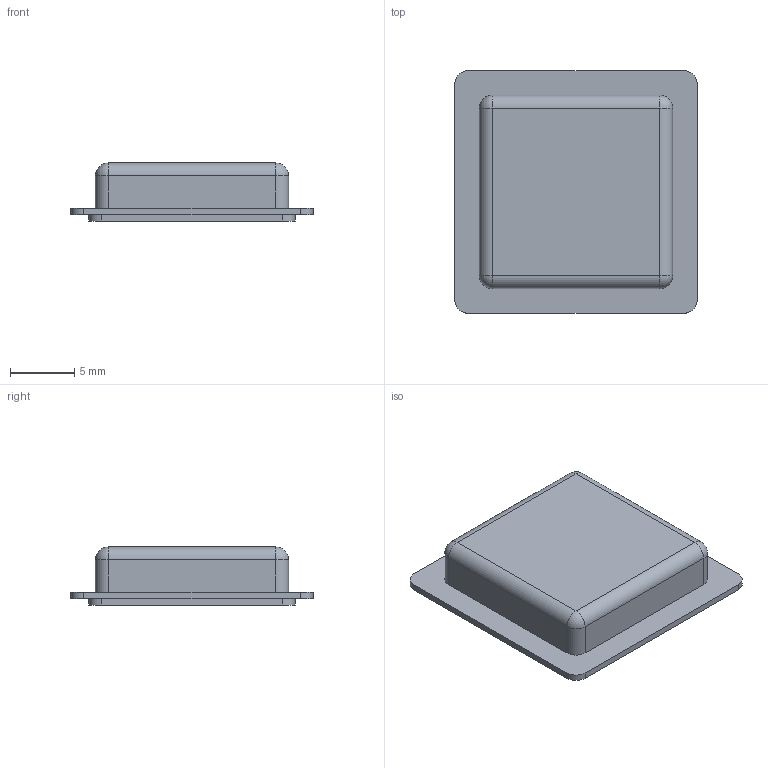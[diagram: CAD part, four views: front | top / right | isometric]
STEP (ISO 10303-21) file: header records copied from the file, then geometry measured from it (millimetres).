
FILE_DESCRIPTION(/* description */ ('STEP AP242 Edition 2','CAx-IF Rec.Pracs.---Representation and Presentation of Product Manufacturing Information (PMI)---4.0---2014-10-13','CAx-IF Rec.Pracs.---3D Tessellated Geometry---0.4---2014-09-14','2;1','CAx-IF Rec.Pracs.---User Defined Attributes---1.5---2016-08-15'),/* implementation_level */ '2;1');
FILE_NAME(/* name */ 'Assembly 1 - Part 1 (7)',/* time_stamp */ '2026-07-23T10:03:21Z',/* author */ (''),/* organization */ (''),/* preprocessor_version */ 'ST-DEVELOPER v20',/* originating_system */ 'ONSHAPE BY PTC INC, 1.218',/* authorisation */ ' ');
FILE_SCHEMA (('AP242_MANAGED_MODEL_BASED_3D_ENGINEERING_MIM_LF { 1 0 10303 442 3 1 4 }'));
Length unit declared in the file: metre
Products named in the file (1): Part 1
Bounding box: 18.8 x 18.8 x 4.5 mm (x, y, z)
Volume: 866.5 mm3; surface area: 1007.9 mm2
Topology: 1 solids, 1 shells, 54 faces, 136 edges, 84 vertices
Faces by surface type: plane 26, cylinder 24, sphere 4
Entity records: 1612 total; most frequent: DIRECTION 290, CARTESIAN_POINT 271, ORIENTED_EDGE 264, EDGE_CURVE 132, AXIS2_PLACEMENT_3D 103, VERTEX_POINT 84, LINE 84, VECTOR 84
